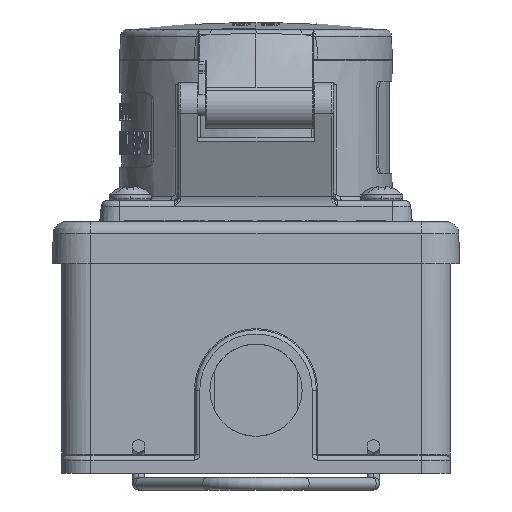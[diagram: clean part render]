
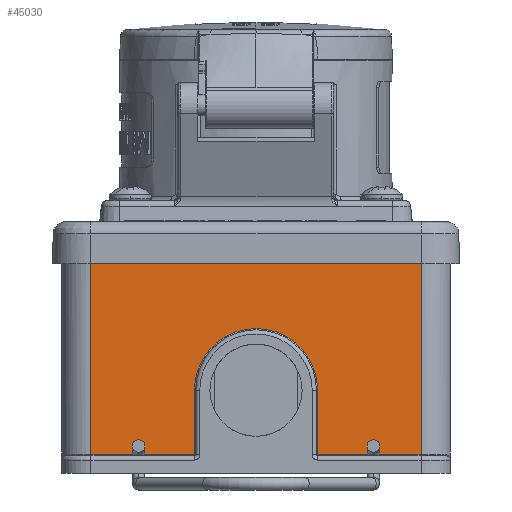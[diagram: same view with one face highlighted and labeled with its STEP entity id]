
A CAD part, left-side view. The second image highlights one B-rep face of the part: STEP entity #45030.
In plain terms, the highlighted planar face has unit normal (-1, 0, 0).
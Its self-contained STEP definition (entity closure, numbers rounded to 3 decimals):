
#3721=DIRECTION('',(0.,-1.,0.));
#3722=VECTOR('',#3721,78.7);
#3723=CARTESIAN_POINT('',(-173.,39.35,50.));
#3724=LINE('3096',#3723,#3722);
#3725=DIRECTION('',(0.,0.,-1.));
#3726=VECTOR('',#3725,45.55);
#3727=CARTESIAN_POINT('',(-173.,-39.35,50.));
#3728=LINE('3104',#3727,#3726);
#3729=DIRECTION('',(0.,1.,0.));
#3730=VECTOR('',#3729,24.65);
#3731=CARTESIAN_POINT('',(-173.,-39.35,4.45));
#3732=LINE('2439',#3731,#3730);
#3733=DIRECTION('',(0.,0.,1.));
#3734=VECTOR('',#3733,15.35);
#3735=CARTESIAN_POINT('',(-173.,-14.7,4.45));
#3736=LINE('2436',#3735,#3734);
#3737=CARTESIAN_POINT('',(-173.,0.,19.8));
#3738=DIRECTION('',(-1.,0.,0.));
#3739=DIRECTION('',(0.,-1.,0.));
#3740=AXIS2_PLACEMENT_3D('',#3737,#3738,#3739);
#3742=DIRECTION('',(0.,0.,-1.));
#3743=VECTOR('',#3742,15.35);
#3744=CARTESIAN_POINT('',(-173.,14.7,19.8));
#3745=LINE('2432',#3744,#3743);
#3746=DIRECTION('',(0.,1.,0.));
#3747=VECTOR('',#3746,24.65);
#3748=CARTESIAN_POINT('',(-173.,14.7,4.45));
#3749=LINE('2429',#3748,#3747);
#3750=DIRECTION('',(0.,0.,-1.));
#3751=VECTOR('',#3750,45.55);
#3752=CARTESIAN_POINT('',(-173.,39.35,50.));
#3753=LINE('3103',#3752,#3751);
#32891=CARTESIAN_POINT('',(-173.,39.35,4.45));
#32892=VERTEX_POINT('',#32891);
#32895=CARTESIAN_POINT('',(-173.,14.7,4.45));
#32896=VERTEX_POINT('',#32895);
#32901=CARTESIAN_POINT('',(-173.,14.7,19.8));
#32902=VERTEX_POINT('',#32901);
#32905=CARTESIAN_POINT('',(-173.,-14.7,19.8));
#32906=VERTEX_POINT('',#32905);
#32909=CARTESIAN_POINT('',(-173.,-14.7,4.45));
#32910=VERTEX_POINT('',#32909);
#32915=CARTESIAN_POINT('',(-173.,-39.35,4.45));
#32916=VERTEX_POINT('',#32915);
#33686=CARTESIAN_POINT('',(-173.,39.35,50.));
#33687=CARTESIAN_POINT('',(-173.,-39.35,50.));
#33688=VERTEX_POINT('',#33686);
#33689=VERTEX_POINT('',#33687);
#45009=CARTESIAN_POINT('',(-173.,46.35,0.));
#45010=DIRECTION('',(-1.,0.,0.));
#45011=DIRECTION('',(0.,-1.,0.));
#45012=AXIS2_PLACEMENT_3D('',#45009,#45010,#45011);
#45013=PLANE('31',#45012);
#45014=ORIENTED_EDGE('3096',*,*,#44927,.T.);
#45016=ORIENTED_EDGE('3104',*,*,#45015,.T.);
#45018=ORIENTED_EDGE('2439',*,*,#45017,.T.);
#45020=ORIENTED_EDGE('2436',*,*,#45019,.T.);
#45022=ORIENTED_EDGE('2434',*,*,#45021,.T.);
#45024=ORIENTED_EDGE('2432',*,*,#45023,.T.);
#45026=ORIENTED_EDGE('2429',*,*,#45025,.T.);
#45027=ORIENTED_EDGE('3103',*,*,#44987,.F.);
#45028=EDGE_LOOP('31',(#45014,#45016,#45018,#45020,#45022,#45024,#45026,
#45027));
#45029=FACE_OUTER_BOUND('31',#45028,.F.);
#3741=CIRCLE('2434',#3740,14.7);
#44927=EDGE_CURVE('3096',#33688,#33689,#3724,.T.);
#44987=EDGE_CURVE('3103',#33688,#32892,#3753,.T.);
#45015=EDGE_CURVE('3104',#33689,#32916,#3728,.T.);
#45017=EDGE_CURVE('2439',#32916,#32910,#3732,.T.);
#45019=EDGE_CURVE('2436',#32910,#32906,#3736,.T.);
#45021=EDGE_CURVE('2434',#32906,#32902,#3741,.T.);
#45023=EDGE_CURVE('2432',#32902,#32896,#3745,.T.);
#45025=EDGE_CURVE('2429',#32896,#32892,#3749,.T.);
#45030=ADVANCED_FACE('31',(#45029),#45013,.T.);
